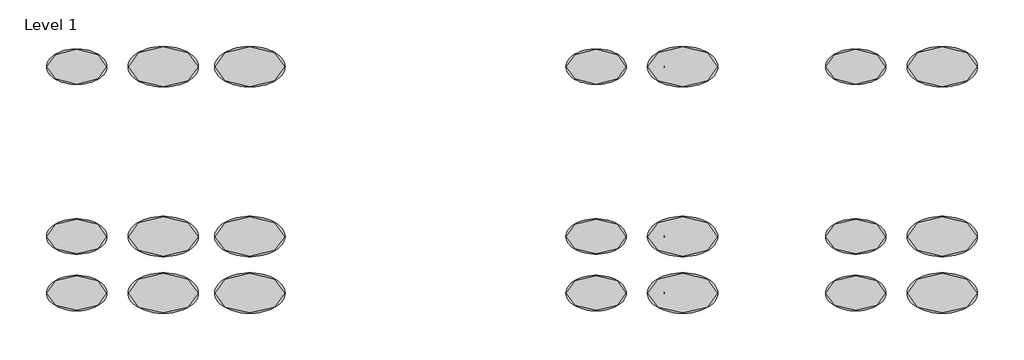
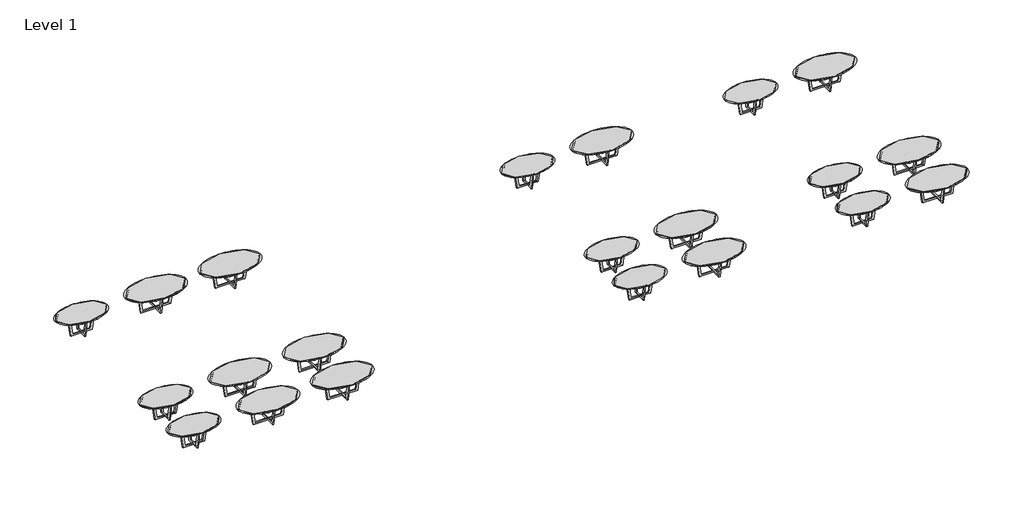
# One storey, incomplete: 21 furniture elements.
"""IFC4 building model written with IfcOpenShell, lengths in millimetres."""

from ifc_helpers import new_model, si_unit, origin, place, context, project, spatial, transform, mapped, element, save
from components import furniture_63e50bf2, furniture_d2207c9c

model = new_model("IFC4")

# Units and contexts
model_context = context("Model", 3, world=origin())
ifc_project = project(units=[si_unit("LENGTHUNIT", "METRE", prefix="MILLI")], contexts=[model_context])

# Site, building, storey
site = spatial("IfcSite", under=ifc_project)
building = spatial("IfcBuilding", under=site)
storey = spatial("IfcBuildingStorey", under=building, Name="Level 1", Elevation=0.0)

# Furniture
placement = place(None, origin())
furniture_shape = furniture_63e50bf2(model_context)
element("IfcFurniture", 1, ObjectType="Knoll_Datesweiser_Tables_Meeting_Highline_Elliptical : 42W Corian Open", at=placement, inside=storey, context=model_context, shape_type="MappedRepresentation", body=[
    mapped(furniture_shape, transform((20012.6916567, 457.7375021, 0.0), x_axis=(1.0, 0.0, 0.0), y_axis=(0.0, 1.0, 0.0), z_axis=(0.0, 0.0, 1.0))),
])
element("IfcFurniture", 2, ObjectType="Knoll_Datesweiser_Tables_Meeting_Highline_Elliptical : 42W Corian Open", at=placement, inside=storey, context=model_context, shape_type="MappedRepresentation", body=[
    mapped(furniture_shape, transform((20012.6916567, -4722.7874936, 0.0), x_axis=(1.0, 0.0, 0.0), y_axis=(0.0, 1.0, 0.0), z_axis=(0.0, 0.0, 1.0))),
])
element("IfcFurniture", 3, ObjectType="Knoll_Datesweiser_Tables_Meeting_Highline_Elliptical : 42W Corian Open", at=placement, inside=storey, context=model_context, shape_type="MappedRepresentation", body=[
    mapped(furniture_shape, transform((20012.6916567, -6449.6291589, 0.0), x_axis=(1.0, 0.0, 0.0), y_axis=(0.0, 1.0, 0.0), z_axis=(0.0, 0.0, 1.0))),
])
furniture_2_shape = furniture_d2207c9c(model_context)
element("IfcFurniture", 4, ObjectType="Knoll_Datesweiser_Tables_Meeting_Highline_Elliptical : 48W Corian Open", at=placement, inside=storey, context=model_context, shape_type="MappedRepresentation", body=[
    mapped(furniture_2_shape, transform((22653.933322, 457.7375021, 0.0), x_axis=(1.0, 0.0, 0.0), y_axis=(0.0, 1.0, 0.0), z_axis=(0.0, 0.0, 1.0))),
])
element("IfcFurniture", 5, ObjectType="Knoll_Datesweiser_Tables_Meeting_Highline_Elliptical : 48W Corian Open", at=placement, inside=storey, context=model_context, shape_type="MappedRepresentation", body=[
    mapped(furniture_2_shape, transform((22653.933322, -4722.7874936, 0.0), x_axis=(1.0, 0.0, 0.0), y_axis=(0.0, 1.0, 0.0), z_axis=(0.0, 0.0, 1.0))),
])
element("IfcFurniture", 6, ObjectType="Knoll_Datesweiser_Tables_Meeting_Highline_Elliptical : 48W Corian Open", at=placement, inside=storey, context=model_context, shape_type="MappedRepresentation", body=[
    mapped(furniture_2_shape, transform((22653.933322, -6449.6291589, 0.0), x_axis=(1.0, 0.0, 0.0), y_axis=(0.0, 1.0, 0.0), z_axis=(0.0, 0.0, 1.0))),
])
element("IfcFurniture", 7, ObjectType="Knoll_Datesweiser_Tables_Meeting_Highline_Elliptical : 42W Caesartone Open", at=placement, inside=storey, context=model_context, shape_type="MappedRepresentation", body=[
    mapped(furniture_shape, transform((27936.4166525, 457.7375021, 0.0), x_axis=(1.0, 0.0, 0.0), y_axis=(0.0, 1.0, 0.0), z_axis=(0.0, 0.0, 1.0))),
])
element("IfcFurniture", 8, ObjectType="Knoll_Datesweiser_Tables_Meeting_Highline_Elliptical : 42W Caesartone Open", at=placement, inside=storey, context=model_context, shape_type="MappedRepresentation", body=[
    mapped(furniture_shape, transform((27936.4166525, -4722.7874936, 0.0), x_axis=(1.0, 0.0, 0.0), y_axis=(0.0, 1.0, 0.0), z_axis=(0.0, 0.0, 1.0))),
])
element("IfcFurniture", 9, ObjectType="Knoll_Datesweiser_Tables_Meeting_Highline_Elliptical : 42W Caesartone Open", at=placement, inside=storey, context=model_context, shape_type="MappedRepresentation", body=[
    mapped(furniture_shape, transform((27936.4166525, -6449.6291589, 0.0), x_axis=(1.0, 0.0, 0.0), y_axis=(0.0, 1.0, 0.0), z_axis=(0.0, 0.0, 1.0))),
])
element("IfcFurniture", 10, ObjectType="Knoll_Datesweiser_Tables_Meeting_Highline_Elliptical : 48W Caesartone Open", at=placement, inside=storey, context=model_context, shape_type="MappedRepresentation", body=[
    mapped(furniture_2_shape, transform((30577.6583177, 457.7375021, 0.0), x_axis=(1.0, 0.0, 0.0), y_axis=(0.0, 1.0, 0.0), z_axis=(0.0, 0.0, 1.0))),
])
element("IfcFurniture", 11, ObjectType="Knoll_Datesweiser_Tables_Meeting_Highline_Elliptical : 48W Caesartone Open", at=placement, inside=storey, context=model_context, shape_type="MappedRepresentation", body=[
    mapped(furniture_2_shape, transform((30577.6583177, -4722.7874936, 0.0), x_axis=(1.0, 0.0, 0.0), y_axis=(0.0, 1.0, 0.0), z_axis=(0.0, 0.0, 1.0))),
])
element("IfcFurniture", 12, ObjectType="Knoll_Datesweiser_Tables_Meeting_Highline_Elliptical : 48W Caesartone Open", at=placement, inside=storey, context=model_context, shape_type="MappedRepresentation", body=[
    mapped(furniture_2_shape, transform((30577.6583177, -6449.6291589, 0.0), x_axis=(1.0, 0.0, 0.0), y_axis=(0.0, 1.0, 0.0), z_axis=(0.0, 0.0, 1.0))),
])
element("IfcFurniture", 13, ObjectType="Knoll_Datesweiser_Tables_Meeting_Highline_Elliptical : 42W Veneer Open", at=placement, inside=storey, context=model_context, shape_type="MappedRepresentation", body=[
    mapped(furniture_shape, transform((4165.2416652, 457.7375021, 0.0), x_axis=(1.0, 0.0, 0.0), y_axis=(0.0, 1.0, 0.0), z_axis=(0.0, 0.0, 1.0))),
])
element("IfcFurniture", 14, ObjectType="Knoll_Datesweiser_Tables_Meeting_Highline_Elliptical : 42W Veneer Open", at=placement, inside=storey, context=model_context, shape_type="MappedRepresentation", body=[
    mapped(furniture_shape, transform((4165.2416652, -4722.7874936, 0.0), x_axis=(1.0, 0.0, 0.0), y_axis=(0.0, 1.0, 0.0), z_axis=(0.0, 0.0, 1.0))),
])
element("IfcFurniture", 15, ObjectType="Knoll_Datesweiser_Tables_Meeting_Highline_Elliptical : 42W Veneer Open", at=placement, inside=storey, context=model_context, shape_type="MappedRepresentation", body=[
    mapped(furniture_shape, transform((4165.2416652, -6449.6291589, 0.0), x_axis=(1.0, 0.0, 0.0), y_axis=(0.0, 1.0, 0.0), z_axis=(0.0, 0.0, 1.0))),
])
element("IfcFurniture", 16, ObjectType="Knoll_Datesweiser_Tables_Meeting_Highline_Elliptical : 48W Veneer Open", at=placement, inside=storey, context=model_context, shape_type="MappedRepresentation", body=[
    mapped(furniture_2_shape, transform((6806.4833305, 457.7375021, 0.0), x_axis=(1.0, 0.0, 0.0), y_axis=(0.0, 1.0, 0.0), z_axis=(0.0, 0.0, 1.0))),
])
element("IfcFurniture", 17, ObjectType="Knoll_Datesweiser_Tables_Meeting_Highline_Elliptical : 48W Veneer Open", at=placement, inside=storey, context=model_context, shape_type="MappedRepresentation", body=[
    mapped(furniture_2_shape, transform((6806.4833305, -4722.7874936, 0.0), x_axis=(1.0, 0.0, 0.0), y_axis=(0.0, 1.0, 0.0), z_axis=(0.0, 0.0, 1.0))),
])
element("IfcFurniture", 18, ObjectType="Knoll_Datesweiser_Tables_Meeting_Highline_Elliptical : 48W Veneer Open", at=placement, inside=storey, context=model_context, shape_type="MappedRepresentation", body=[
    mapped(furniture_2_shape, transform((6806.4833305, -6449.6291589, 0.0), x_axis=(1.0, 0.0, 0.0), y_axis=(0.0, 1.0, 0.0), z_axis=(0.0, 0.0, 1.0))),
])
element("IfcFurniture", 19, ObjectType="Knoll_Datesweiser_Tables_Meeting_Highline_Elliptical : 48W Veneer WireMgmt", at=placement, inside=storey, context=model_context, shape_type="MappedRepresentation", body=[
    mapped(furniture_2_shape, transform((9447.7249957, 457.7375021, 0.0), x_axis=(1.0, 0.0, 0.0), y_axis=(0.0, 1.0, 0.0), z_axis=(0.0, 0.0, 1.0))),
])
element("IfcFurniture", 20, ObjectType="Knoll_Datesweiser_Tables_Meeting_Highline_Elliptical : 48W Veneer WireMgmt", at=placement, inside=storey, context=model_context, shape_type="MappedRepresentation", body=[
    mapped(furniture_2_shape, transform((9447.7249957, -4722.7874936, 0.0), x_axis=(1.0, 0.0, 0.0), y_axis=(0.0, 1.0, 0.0), z_axis=(0.0, 0.0, 1.0))),
])
element("IfcFurniture", 21, ObjectType="Knoll_Datesweiser_Tables_Meeting_Highline_Elliptical : 48W Veneer WireMgmt", at=placement, inside=storey, context=model_context, shape_type="MappedRepresentation", body=[
    mapped(furniture_2_shape, transform((9447.7249957, -6449.6291589, 0.0), x_axis=(1.0, 0.0, 0.0), y_axis=(0.0, 1.0, 0.0), z_axis=(0.0, 0.0, 1.0))),
])

save(model, "model.ifc")
